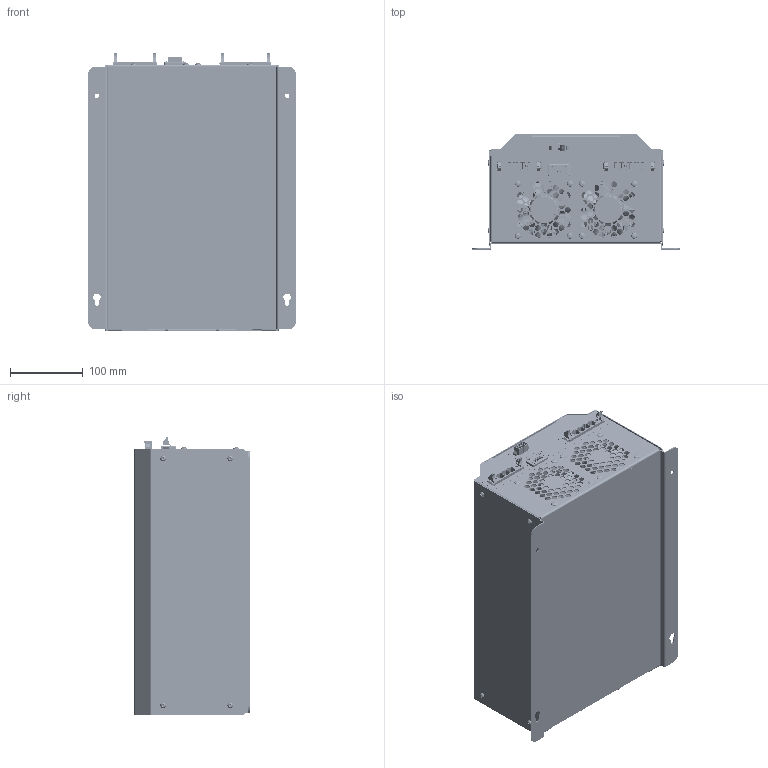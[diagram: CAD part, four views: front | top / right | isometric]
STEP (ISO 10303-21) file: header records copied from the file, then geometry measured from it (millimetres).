
FILE_DESCRIPTION (( 'STEP AP214' ), '1' );
FILE_NAME ('10KW-PARALLELO.STEP', '2023-10-05T12:53:23', ( '' ), ( '' ), 'SwSTEP 2.0', 'SolidWorks 2022', '' );
FILE_SCHEMA (( 'AUTOMOTIVE_DESIGN' ));
Length unit declared in the file: millimetre
Products named in the file (122): PC00007_04; AD00086_01; AD00179_01; PD00098_01; AD00059_01; AD00162_01; PD00138_02; PC00008_03; AD00002_01_По умолчанию; AD00207_01; 0.061.005.00009_Senza bandelle; PD00099_01; AD00083_01; AD00129_05; AD00191_01; PD00138_01; CB00045_02; AD00128_01; CB00021_02; PC00068_03; AD00004_01; AD00094_01; AD00061_01; AD00146_01; AD00183_01; PC00034_01; PC00047_01; AD00186_01; PD00029_01_MP0031_01; PC00018_02; AD00123_01; AD00198_01; AD00054_01; PD00066_01; Housing^PC00012_01; CB00072_01; PC00004_01; Pasta siliconica Wacker P12^ME0020_02; PC00078_01; AD00120_01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
Assembly tree (781 placements, depth 5):
  10KW-PARALLELO
    MP0031_01-01
      PD00068_01
        PD00068_01-01
        PC00047_01  x8
        PC00008_03  x4
      PD00034_01
      PD00098_01
      PC00018_02
      PC00039_01  x2
      PC00025_01  x2
      PC00078_01
      PC00078_02
      PC00061_01  x8
      CB00033_01_NoWires  x2
        PC00012_01
          Housing^PC00012_01
          Blades^PC00012_01
      PC00093_01  x4
      PD00138_01
      PD00099_01
      PD00138_02
    ME0020_02
      PD00066_01
      ME0020_02-01
        PD00097_01
          PD00097_01-01
          PC00072_01  x2
          PC00007_04  x4
        PC00068_03  x2
        PD00072_01_NoWires  x2
          PD00072_01-1_No Wires
        PC00068_03_Deformato  x2
        PC00077_02  x2
        PC00091_03  x2
      PC00030_02  x4
      Pasta siliconica Wacker P12^ME0020_02
      PC00003_01
      PC00075_01
      EL0009_01-PTH_Senza bandelle
        AD00356_01
        AD00224_01  x3
        AD00186_01
        AD00064_01  x3
        AD00221_01_SIOV-S14Kxx  x3
        AD00223_01  x3
        AD00111_01
        AD00207_01
        AD00146_01
        AD00162_01  x2
        AD00155_02
        AD00159_01  x2
        AD00116_02
        AD00114_01
        AD00187_03  x3
        AD00130_01  x2
        AD00054_01
        AD00073_01  x4
        AD00046_01
        AD00033_01  x5
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Bounding box: 285 x 157.96 x 382.24 mm (x, y, z)
Volume: 2967331.7 mm3; surface area: 2494606.4 mm2
Topology: 2051 solids, 2051 shells, 53047 faces, 133829 edges, 84791 vertices
Faces by surface type: plane 35078, cylinder 13373, torus 1389, sphere 1309, bspline 1286, cone 612
Full cylindrical faces by diameter (mm): 78 x2
Entity records: 654342 total; most frequent: CARTESIAN_POINT 163023, ORIENTED_EDGE 82906, DIRECTION 82783, EDGE_CURVE 41453, AXIS2_PLACEMENT_3D 27849, VECTOR 27085, LINE 27085, VERTEX_POINT 26678
